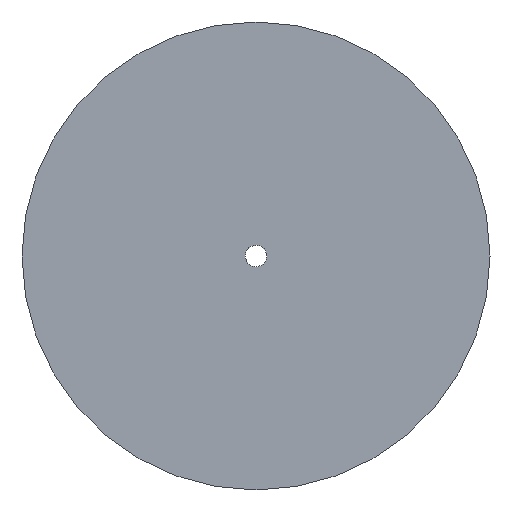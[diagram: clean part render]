
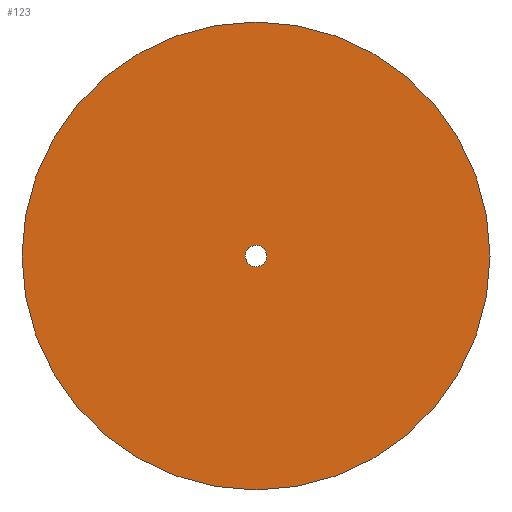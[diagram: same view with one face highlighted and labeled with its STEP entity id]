
A CAD part, top view. The second image highlights one B-rep face of the part: STEP entity #123.
In plain terms, the highlighted planar face has unit normal (0, 0, 1).
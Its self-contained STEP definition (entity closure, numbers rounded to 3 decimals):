
#62=CARTESIAN_POINT('Vertex',(-2.852,1.558,0.)) ;
#76=CARTESIAN_POINT('Vertex',(2.852,-1.558,0.)) ;
#79=CARTESIAN_POINT('Axis2P3D Location',(0.,0.,0.)) ;
#91=CARTESIAN_POINT('Axis2P3D Location',(0.,0.,0.)) ;
#96=CARTESIAN_POINT('Axis2P3D Location',(0.,0.,0.)) ;
#100=CARTESIAN_POINT('Vertex',(71.,0.,0.)) ;
#102=CARTESIAN_POINT('Vertex',(-71.,0.,0.)) ;
#105=CARTESIAN_POINT('Axis2P3D Location',(0.,0.,0.)) ;
#114=CARTESIAN_POINT('Axis2P3D Location',(0.,0.,0.)) ;
#80=DIRECTION('Axis2P3D Direction',(0.,-0.,-1.)) ;
#92=DIRECTION('Axis2P3D Direction',(0.,0.,1.)) ;
#93=DIRECTION('Axis2P3D XDirection',(1.,0.,0.)) ;
#97=DIRECTION('Axis2P3D Direction',(0.,0.,1.)) ;
#106=DIRECTION('Axis2P3D Direction',(0.,0.,1.)) ;
#115=DIRECTION('Axis2P3D Direction',(0.,0.,1.)) ;
#81=AXIS2_PLACEMENT_3D('Circle Axis2P3D',#79,#80,$) ;
#94=AXIS2_PLACEMENT_3D('Plane Axis2P3D',#91,#92,#93) ;
#98=AXIS2_PLACEMENT_3D('Circle Axis2P3D',#96,#97,$) ;
#107=AXIS2_PLACEMENT_3D('Circle Axis2P3D',#105,#106,$) ;
#116=AXIS2_PLACEMENT_3D('Circle Axis2P3D',#114,#115,$) ;
#111=ORIENTED_EDGE('',*,*,#104,.F.) ;
#112=ORIENTED_EDGE('',*,*,#109,.F.) ;
#120=ORIENTED_EDGE('',*,*,#118,.F.) ;
#121=ORIENTED_EDGE('',*,*,#83,.F.) ;
#122=FACE_BOUND('',#119,.T.) ;
#123=ADVANCED_FACE('PartBody',(#113,#122),#95,.T.) ;
#82=CIRCLE('generated circle',#81,3.25) ;
#99=CIRCLE('generated circle',#98,71.) ;
#108=CIRCLE('generated circle',#107,71.) ;
#117=CIRCLE('generated circle',#116,3.25) ;
#83=EDGE_CURVE('',#77,#63,#82,.F.) ;
#104=EDGE_CURVE('',#101,#103,#99,.F.) ;
#109=EDGE_CURVE('',#103,#101,#108,.F.) ;
#118=EDGE_CURVE('',#63,#77,#117,.T.) ;
#110=EDGE_LOOP('',(#111,#112)) ;
#119=EDGE_LOOP('',(#120,#121)) ;
#113=FACE_OUTER_BOUND('',#110,.T.) ;
#95=PLANE('',#94) ;
#63=VERTEX_POINT('',#62) ;
#77=VERTEX_POINT('',#76) ;
#101=VERTEX_POINT('',#100) ;
#103=VERTEX_POINT('',#102) ;
